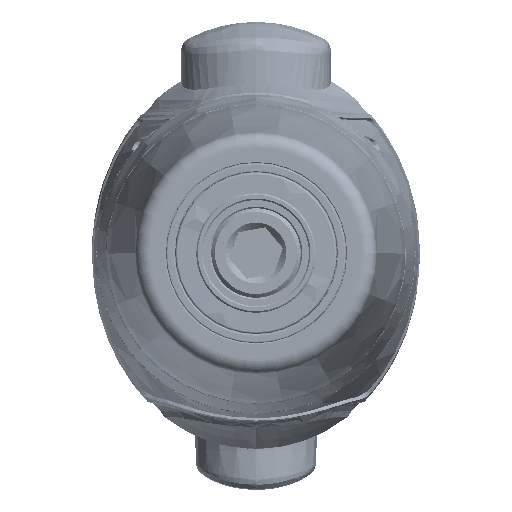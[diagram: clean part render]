
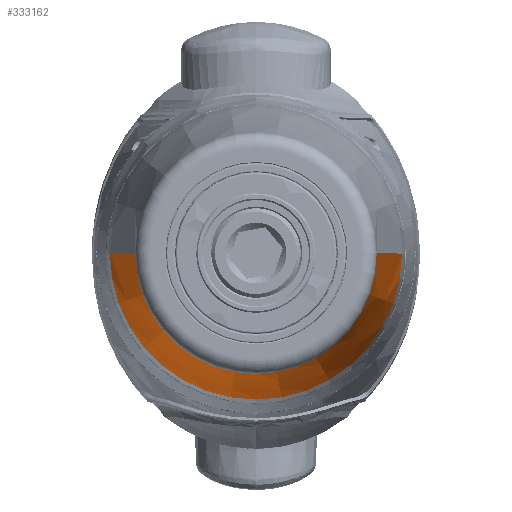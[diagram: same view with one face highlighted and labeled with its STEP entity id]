
A CAD part, top view. The second image highlights one B-rep face of the part: STEP entity #333162.
In plain terms, the highlighted conical face has half-angle 7 degrees and reference radius 17.858 mm.
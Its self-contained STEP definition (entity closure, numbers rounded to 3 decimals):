
#332195=DIRECTION('',(-0.122,0.,-0.993));
#332196=VECTOR('',#332195,27.809);
#332197=CARTESIAN_POINT('',(-16.164,0.,41.444));
#332198=LINE('',#332197,#332196);
#332199=DIRECTION('',(0.122,0.,-0.993));
#332200=VECTOR('',#332199,27.809);
#332201=CARTESIAN_POINT('',(16.164,0.,41.444));
#332202=LINE('',#332201,#332200);
#332203=CARTESIAN_POINT('',(0.,0.,13.842));
#332204=DIRECTION('',(0.,0.,-1.));
#332205=DIRECTION('',(1.,0.,0.));
#332206=AXIS2_PLACEMENT_3D('',#332203,#332204,#332205);
#332213=CARTESIAN_POINT('',(0.,0.,41.444));
#332214=DIRECTION('',(0.,0.,1.));
#332215=DIRECTION('',(-1.,0.,0.));
#332216=AXIS2_PLACEMENT_3D('',#332213,#332214,#332215);
#332595=CARTESIAN_POINT('',(16.164,0.,41.444));
#332596=CARTESIAN_POINT('',(19.553,0.,13.842));
#332597=VERTEX_POINT('',#332595);
#332598=VERTEX_POINT('',#332596);
#332599=CARTESIAN_POINT('',(-16.164,0.,41.444));
#332600=CARTESIAN_POINT('',(-19.553,0.,13.842));
#332601=VERTEX_POINT('',#332599);
#332602=VERTEX_POINT('',#332600);
#333149=CARTESIAN_POINT('',(0.,0.,27.643));
#333150=DIRECTION('',(0.,0.,-1.));
#333151=DIRECTION('',(-1.,0.,0.));
#333152=AXIS2_PLACEMENT_3D('',#333149,#333150,#333151);
#333153=CONICAL_SURFACE('',#333152,17.858,7.);
#333155=ORIENTED_EDGE('',*,*,#333154,.T.);
#333156=ORIENTED_EDGE('',*,*,#333144,.F.);
#333158=ORIENTED_EDGE('',*,*,#333157,.T.);
#333159=ORIENTED_EDGE('',*,*,#333140,.T.);
#333160=EDGE_LOOP('',(#333155,#333156,#333158,#333159));
#333161=FACE_OUTER_BOUND('',#333160,.F.);
#333162=ADVANCED_FACE('',(#333161),#333153,.T.);
#332207=CIRCLE('',#332206,19.553);
#332217=CIRCLE('',#332216,16.164);
#333140=EDGE_CURVE('',#332597,#332598,#332202,.T.);
#333144=EDGE_CURVE('',#332601,#332602,#332198,.T.);
#333154=EDGE_CURVE('',#332598,#332602,#332207,.T.);
#333157=EDGE_CURVE('',#332601,#332597,#332217,.T.);
